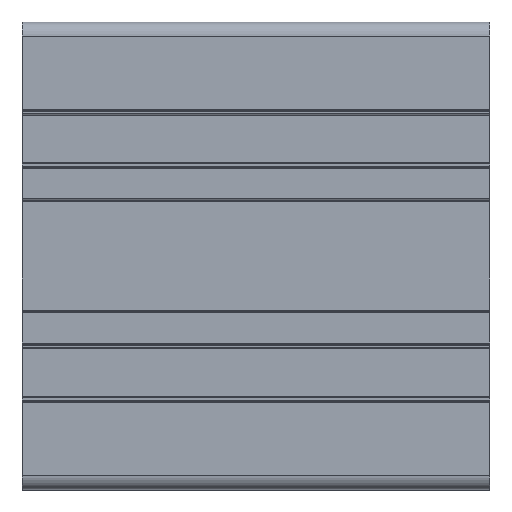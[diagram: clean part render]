
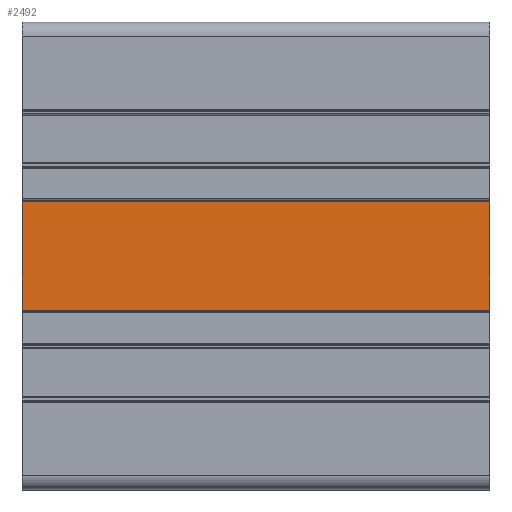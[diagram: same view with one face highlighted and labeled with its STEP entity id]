
A CAD part, top view. The second image highlights one B-rep face of the part: STEP entity #2492.
In plain terms, the highlighted planar face has unit normal (0, 0, 1).
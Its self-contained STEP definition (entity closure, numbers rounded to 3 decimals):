
#2492=ADVANCED_FACE('',(#4768),#4770,.T.);
#4768=FACE_BOUND('',#4769,.T.);
#4769=EDGE_LOOP('',(#6733,#6734,#6735,#6736));
#4770=PLANE('',#4771);
#4771=AXIS2_PLACEMENT_3D('',#4772,#4773,#4774);
#4772=CARTESIAN_POINT('',(-50.,11.65,24.));
#4773=DIRECTION('',(0.,0.,1.));
#4774=DIRECTION('',(0.,-1.,0.));
#6733=ORIENTED_EDGE('',*,*,#7006,.T.);
#6734=ORIENTED_EDGE('',*,*,#7774,.T.);
#6735=ORIENTED_EDGE('',*,*,#7235,.F.);
#6736=ORIENTED_EDGE('',*,*,#7775,.F.);
#7006=EDGE_CURVE('',#8048,#8046,#8049,.T.);
#7235=EDGE_CURVE('',#8504,#8506,#8507,.T.);
#7774=EDGE_CURVE('',#8046,#8506,#9314,.T.);
#7775=EDGE_CURVE('',#8048,#8504,#9315,.T.);
#8046=VERTEX_POINT('',#9862);
#8048=VERTEX_POINT('',#9867);
#8049=LINE('',#9868,#9869);
#8504=VERTEX_POINT('',#10880);
#8506=VERTEX_POINT('',#10885);
#8507=LINE('',#10886,#10887);
#9314=LINE('',#12888,#12889);
#9315=LINE('',#12891,#12892);
#9862=CARTESIAN_POINT('',(-50.,-11.65,24.));
#9867=CARTESIAN_POINT('',(-50.,11.65,24.));
#9868=CARTESIAN_POINT('',(-50.,11.65,24.));
#9869=VECTOR('',#9870,1.);
#9870=DIRECTION('',(0.,-1.,0.));
#10880=CARTESIAN_POINT('',(50.,11.65,24.));
#10885=CARTESIAN_POINT('',(50.,-11.65,24.));
#10886=CARTESIAN_POINT('',(50.,11.65,24.));
#10887=VECTOR('',#10888,1.);
#10888=DIRECTION('',(0.,-1.,0.));
#12888=CARTESIAN_POINT('',(-50.,-11.65,24.));
#12889=VECTOR('',#12890,1.);
#12890=DIRECTION('',(1.,0.,0.));
#12891=CARTESIAN_POINT('',(-50.,11.65,24.));
#12892=VECTOR('',#12893,1.);
#12893=DIRECTION('',(1.,0.,0.));
